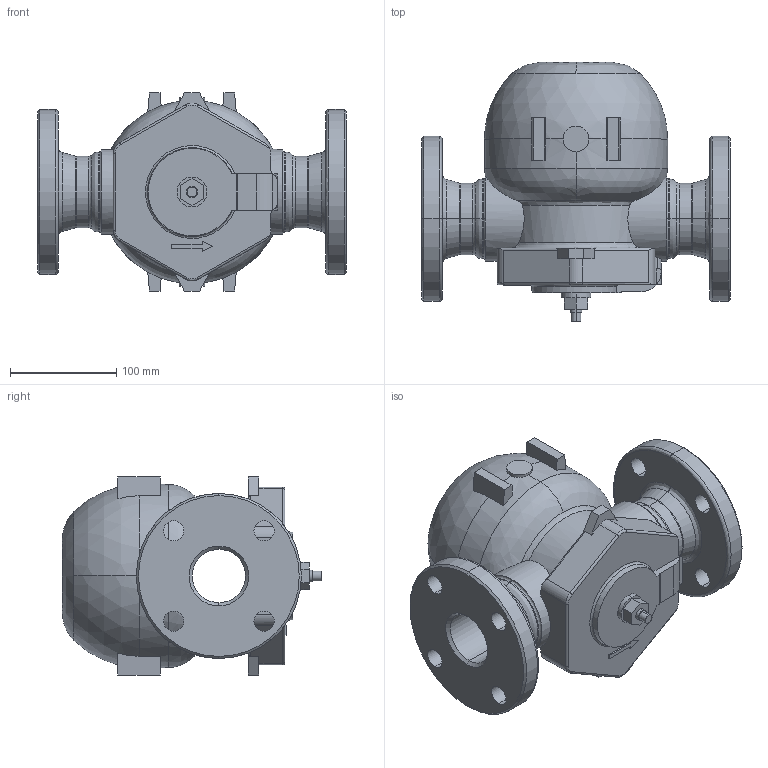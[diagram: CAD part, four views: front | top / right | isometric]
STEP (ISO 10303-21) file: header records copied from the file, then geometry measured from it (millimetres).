
FILE_DESCRIPTION( (''), '2;1');
FILE_NAME ('PC1027.12188.TSF-11F 50A(JIS 10K)_13918.stp','2025-07-31T09:03:34',(''),(''),'spGate 20.6.3 (****-****-****-****)','','');
FILE_SCHEMA (('AUTOMOTIVE_DESIGN'));
Length unit declared in the file: millimetre
Bounding box: 290 x 243.5 x 186 mm (x, y, z)
Volume: 4486007.5 mm3; surface area: 294544.3 mm2
Topology: 1 solids, 1 shells, 199 faces, 509 edges, 320 vertices
Faces by surface type: plane 74, cylinder 73, bspline 50, sphere 2
Entity records: 11343 total; most frequent: CARTESIAN_POINT 2759, ORIENTED_EDGE 1018, DIRECTION 874, COLOUR_RGB 709, PRESENTATION_STYLE_ASSIGNMENT 709, STYLED_ITEM 709, EDGE_CURVE 509, DRAUGHTING_PRE_DEFINED_CURVE_FONT 509
